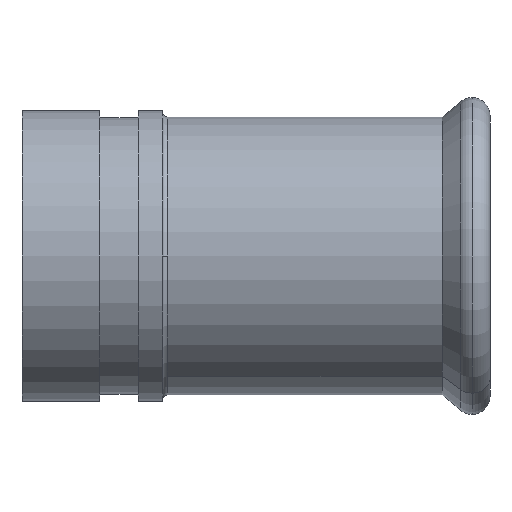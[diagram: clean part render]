
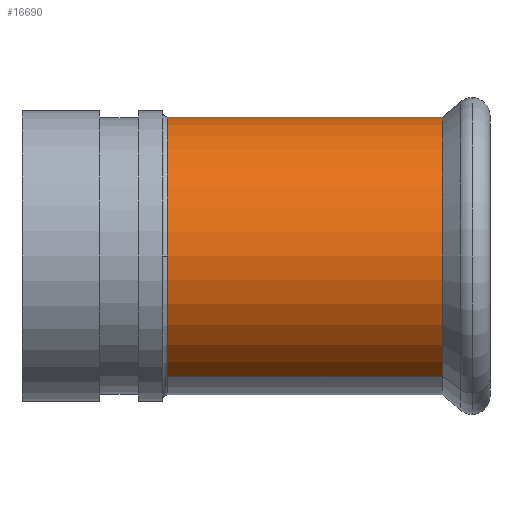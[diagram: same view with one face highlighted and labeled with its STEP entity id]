
A CAD part, front view. The second image highlights one B-rep face of the part: STEP entity #16690.
In plain terms, the highlighted cylindrical face has radius 28.65 mm (diameter 57.3 mm), a partial arc.
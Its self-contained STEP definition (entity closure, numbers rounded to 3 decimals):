
#4170=CARTESIAN_POINT('',(574.256,-574.147,
-24.812));
#4180=VERTEX_POINT('',#4170);
#4360=CARTESIAN_POINT('',(574.256,-545.497,
24.812));
#4370=VERTEX_POINT('',#4360);
#4400=CARTESIAN_POINT('',(574.256,-559.822,
0.));
#4410=DIRECTION('',(1.,0.,0.));
#4420=DIRECTION('',(0.,0.5,
0.866));
#4430=AXIS2_PLACEMENT_3D('',#4400,#4410,#4420);
#4440=CIRCLE('',#4430,28.65);
#4660=CARTESIAN_POINT('',(517.57,-559.822,
0.));
#4670=DIRECTION('',(1.,0.,0.));
#4680=DIRECTION('',(0.,-1.,0.));
#4690=AXIS2_PLACEMENT_3D('',#4660,#4670,#4680);
#4700=CIRCLE('',#4690,28.65);
#4710=CARTESIAN_POINT('',(517.57,-545.497,
24.812));
#4720=VERTEX_POINT('',#4710);
#4750=CARTESIAN_POINT('',(517.57,-588.472,
0.));
#4760=VERTEX_POINT('',#4750);
#4770=EDGE_CURVE('',#4720,#4760,#4700,.T.);
#16430=CARTESIAN_POINT('',(561.42,-559.822,
0.));
#16440=DIRECTION('',(-1.,0.,0.));
#16450=DIRECTION('',(0.,-0.5,
-0.866));
#16460=AXIS2_PLACEMENT_3D('',#16430,#16440,#16450);
#16470=CYLINDRICAL_SURFACE('',#16460,28.65);
#16480=CARTESIAN_POINT('',(561.42,-545.497,
24.812));
#16490=DIRECTION('',(-1.,0.,0.));
#16500=VECTOR('',#16490,1.);
#16510=LINE('',#16480,#16500);
#16520=EDGE_CURVE('',#4370,#4720,#16510,.T.);
#16530=ORIENTED_EDGE('',*,*,#16520,.T.);
#16540=EDGE_CURVE('',#4370,#4180,#4440,.T.);
#16550=ORIENTED_EDGE('',*,*,#16540,.F.);
#16560=CARTESIAN_POINT('',(561.42,-574.147,
-24.812));
#16570=DIRECTION('',(-1.,0.,0.));
#16580=VECTOR('',#16570,1.);
#16590=LINE('',#16560,#16580);
#16600=CARTESIAN_POINT('',(517.57,-574.147,
-24.812));
#16610=VERTEX_POINT('',#16600);
#16620=EDGE_CURVE('',#4180,#16610,#16590,.T.);
#16630=ORIENTED_EDGE('',*,*,#16620,.F.);
#16640=EDGE_CURVE('',#4760,#16610,#4700,.T.);
#16650=ORIENTED_EDGE('',*,*,#16640,.T.);
#16660=ORIENTED_EDGE('',*,*,#4770,.T.);
#16670=EDGE_LOOP('',(#16660,#16650,#16630,#16550,#16530));
#16680=FACE_OUTER_BOUND('',#16670,.T.);
#16690=ADVANCED_FACE('',(#16680),#16470,.T.);
